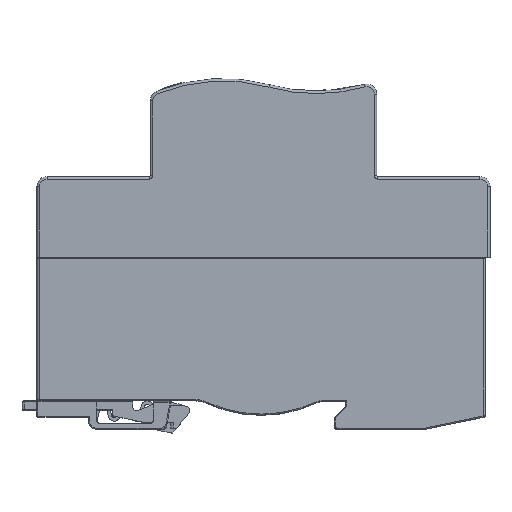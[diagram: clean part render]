
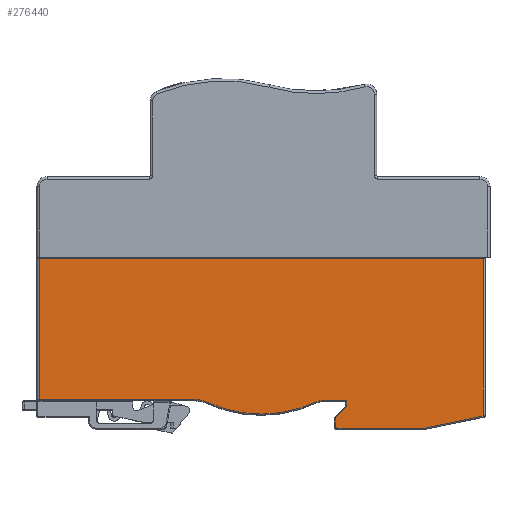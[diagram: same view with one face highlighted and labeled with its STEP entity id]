
A CAD part, top view. The second image highlights one B-rep face of the part: STEP entity #276440.
In plain terms, the highlighted planar face has unit normal (0, 0, 1).
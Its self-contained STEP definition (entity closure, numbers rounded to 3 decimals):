
#220840=CARTESIAN_POINT('',(-44.5,-0.9,17.8));
#220850=VERTEX_POINT('',#220840);
#220880=CARTESIAN_POINT('',(-44.5,-0.9,17.8));
#220890=DIRECTION('',(1.,0.,0.));
#220900=VECTOR('',#220890,1.);
#220910=LINE('',#220880,#220900);
#220920=CARTESIAN_POINT('',(-13.136,-0.9,17.8));
#220930=VERTEX_POINT('',#220920);
#220940=EDGE_CURVE('',#220850,#220930,#220910,.T.);
#229080=CARTESIAN_POINT('',(-13.136,-6.1,
17.8));
#229090=DIRECTION('',(0.,0.,-1.));
#229100=DIRECTION('',(-1.,0.,-0.));
#229110=AXIS2_PLACEMENT_3D('',#229080,#229090,#229100);
#229120=CIRCLE('',#229110,5.2);
#229130=CARTESIAN_POINT('',(-10.947,-1.383,
17.8));
#229140=VERTEX_POINT('',#229130);
#229150=EDGE_CURVE('',#220930,#229140,#229120,.T.);
#229340=CARTESIAN_POINT('',(0.,22.2,17.8));
#229350=DIRECTION('',(0.,0.,1.));
#229360=DIRECTION('',(1.,0.,-0.));
#229370=AXIS2_PLACEMENT_3D('',#229340,#229350,#229360);
#229380=CIRCLE('',#229370,26.);
#229390=CARTESIAN_POINT('',(11.102,-1.311,17.8));
#229400=VERTEX_POINT('',#229390);
#229410=EDGE_CURVE('',#229140,#229400,#229380,.T.);
#229600=CARTESIAN_POINT('',(12.041,-3.3,17.8));
#229610=DIRECTION('',(0.,0.,-1.));
#229620=DIRECTION('',(-1.,0.,-0.));
#229630=AXIS2_PLACEMENT_3D('',#229600,#229610,#229620);
#229640=CIRCLE('',#229630,2.2);
#229650=CARTESIAN_POINT('',(12.041,-1.1,
17.8));
#229660=VERTEX_POINT('',#229650);
#229670=EDGE_CURVE('',#229400,#229660,#229640,.T.);
#229860=CARTESIAN_POINT('',(12.041,-1.1,17.8));
#229870=DIRECTION('',(1.,0.,0.));
#229880=VECTOR('',#229870,1.);
#229890=LINE('',#229860,#229880);
#229900=CARTESIAN_POINT('',(17.2,-1.1,17.8));
#229910=VERTEX_POINT('',#229900);
#229920=EDGE_CURVE('',#229660,#229910,#229890,.T.);
#230950=CARTESIAN_POINT('',(17.2,-1.1,17.8));
#230960=DIRECTION('',(0.,-1.,0.));
#230970=VECTOR('',#230960,1.);
#230980=LINE('',#230950,#230970);
#230990=CARTESIAN_POINT('',(17.2,-2.283,17.8));
#231000=VERTEX_POINT('',#230990);
#231010=EDGE_CURVE('',#229910,#231000,#230980,.T.);
#231210=CARTESIAN_POINT('',(15.2,-6.6,17.8));
#231220=DIRECTION('',(1.,0.,0.));
#231230=VECTOR('',#231220,1.);
#231240=LINE('',#231210,#231230);
#231250=CARTESIAN_POINT('',(15.2,-6.6,17.8));
#231260=VERTEX_POINT('',#231250);
#231270=CARTESIAN_POINT('',(32.979,-6.6,17.8));
#231280=VERTEX_POINT('',#231270);
#231290=EDGE_CURVE('',#231260,#231280,#231240,.T.);
#234580=CARTESIAN_POINT('',(44.5,-4.2,
17.8));
#234590=VERTEX_POINT('',#234580);
#234810=CARTESIAN_POINT('',(32.979,-6.6,17.8));
#234820=DIRECTION('',(0.979,0.204,0.));
#234830=VECTOR('',#234820,1.);
#234840=LINE('',#234810,#234830);
#234850=EDGE_CURVE('',#231280,#234590,#234840,.T.);
#262000=CARTESIAN_POINT('',(44.5,27.4,17.8));
#262010=VERTEX_POINT('',#262000);
#262040=CARTESIAN_POINT('',(0.,27.4,17.8));
#262050=DIRECTION('',(-1.,0.,0.));
#262060=VECTOR('',#262050,1.);
#262070=LINE('',#262040,#262060);
#262080=CARTESIAN_POINT('',(-44.5,27.4,17.8));
#262090=VERTEX_POINT('',#262080);
#262100=EDGE_CURVE('',#262010,#262090,#262070,.T.);
#262300=CARTESIAN_POINT('',(44.5,-4.2,
17.8));
#262310=DIRECTION('',(0.,1.,0.));
#262320=VECTOR('',#262310,1.);
#262330=LINE('',#262300,#262320);
#262340=EDGE_CURVE('',#234590,#262010,#262330,.T.);
#267950=CARTESIAN_POINT('',(-44.5,27.4,17.8));
#267960=DIRECTION('',(0.,-1.,0.));
#267970=VECTOR('',#267960,1.);
#267980=LINE('',#267950,#267970);
#267990=EDGE_CURVE('',#262090,#220850,#267980,.T.);
#275940=CARTESIAN_POINT('',(-46.28,-7.28,17.8));
#275950=DIRECTION('',(0.,0.,1.));
#275960=DIRECTION('',(1.,0.,-0.));
#275970=AXIS2_PLACEMENT_3D('',#275940,#275950,#275960);
#275980=PLANE('',#275970);
#275990=ORIENTED_EDGE('',*,*,#229920,.T.);
#276000=ORIENTED_EDGE('',*,*,#229670,.T.);
#276010=ORIENTED_EDGE('',*,*,#229410,.T.);
#276020=ORIENTED_EDGE('',*,*,#229150,.T.);
#276030=ORIENTED_EDGE('',*,*,#220940,.T.);
#276040=ORIENTED_EDGE('',*,*,#267990,.T.);
#276050=ORIENTED_EDGE('',*,*,#262100,.T.);
#276060=ORIENTED_EDGE('',*,*,#262340,.T.);
#276070=ORIENTED_EDGE('',*,*,#234850,.T.);
#276080=ORIENTED_EDGE('',*,*,#231290,.T.);
#276090=CARTESIAN_POINT('',(15.2,-6.3,17.8));
#276100=DIRECTION('',(0.,0.,1.));
#276110=DIRECTION('',(1.,0.,-0.));
#276120=AXIS2_PLACEMENT_3D('',#276090,#276100,#276110);
#276130=CIRCLE('',#276120,0.3);
#276140=CARTESIAN_POINT('',(14.9,-6.3,17.8));
#276150=VERTEX_POINT('',#276140);
#276160=EDGE_CURVE('',#276150,#231260,#276130,.T.);
#276170=ORIENTED_EDGE('',*,*,#276160,.T.);
#276180=CARTESIAN_POINT('',(14.9,-4.707,17.8));
#276190=DIRECTION('',(0.,-1.,0.));
#276200=VECTOR('',#276190,1.);
#276210=LINE('',#276180,#276200);
#276220=CARTESIAN_POINT('',(14.9,-4.707,17.8));
#276230=VERTEX_POINT('',#276220);
#276240=EDGE_CURVE('',#276230,#276150,#276210,.T.);
#276250=ORIENTED_EDGE('',*,*,#276240,.T.);
#276260=CARTESIAN_POINT('',(15.2,-4.707,17.8));
#276270=DIRECTION('',(0.,0.,1.));
#276280=DIRECTION('',(1.,0.,-0.));
#276290=AXIS2_PLACEMENT_3D('',#276260,#276270,#276280);
#276300=CIRCLE('',#276290,0.3);
#276310=CARTESIAN_POINT('',(14.988,-4.495,17.8));
#276320=VERTEX_POINT('',#276310);
#276330=EDGE_CURVE('',#276320,#276230,#276300,.T.);
#276340=ORIENTED_EDGE('',*,*,#276330,.T.);
#276350=CARTESIAN_POINT('',(17.2,-2.283,17.8));
#276360=DIRECTION('',(-0.707,-0.707,0.));
#276370=VECTOR('',#276360,1.);
#276380=LINE('',#276350,#276370);
#276390=EDGE_CURVE('',#231000,#276320,#276380,.T.);
#276400=ORIENTED_EDGE('',*,*,#276390,.T.);
#276410=ORIENTED_EDGE('',*,*,#231010,.T.);
#276420=EDGE_LOOP('',(#276410,#276400,#276340,#276250,#276170,#276080,
#276070,#276060,#276050,#276040,#276030,#276020,#276010,#276000,#275990)
);
#276430=FACE_OUTER_BOUND('',#276420,.T.);
#276440=ADVANCED_FACE('',(#276430),#275980,.T.);
